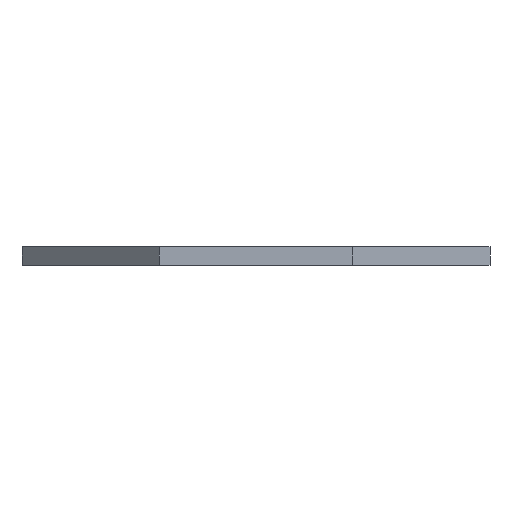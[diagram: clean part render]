
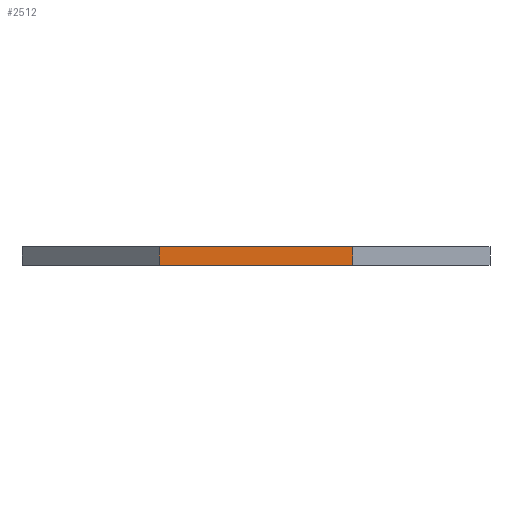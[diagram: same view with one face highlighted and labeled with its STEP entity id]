
A CAD part, front view. The second image highlights one B-rep face of the part: STEP entity #2512.
In plain terms, the highlighted planar face has unit normal (0, -1, 0).
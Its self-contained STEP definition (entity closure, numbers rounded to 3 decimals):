
#72 = PLANE('',#73);
#73 = AXIS2_PLACEMENT_3D('',#74,#75,#76);
#74 = CARTESIAN_POINT('',(0.,0.,8.));
#75 = DIRECTION('',(0.,0.,1.));
#76 = DIRECTION('',(1.,0.,-0.));
#126 = PLANE('',#127);
#127 = AXIS2_PLACEMENT_3D('',#128,#129,#130);
#128 = CARTESIAN_POINT('',(0.,0.,0.));
#129 = DIRECTION('',(0.,0.,1.));
#130 = DIRECTION('',(1.,0.,-0.));
#159 = PLANE('',#160);
#160 = AXIS2_PLACEMENT_3D('',#161,#162,#163);
#161 = CARTESIAN_POINT('',(42.457,-102.5,0.));
#162 = DIRECTION('',(-0.707,0.707,0.));
#163 = DIRECTION('',(0.707,0.707,0.));
#347 = VERTEX_POINT('',#348);
#348 = CARTESIAN_POINT('',(-42.457,-102.5,0.));
#362 = PLANE('',#363);
#363 = AXIS2_PLACEMENT_3D('',#364,#365,#366);
#364 = CARTESIAN_POINT('',(-102.5,-42.457,0.));
#365 = DIRECTION('',(0.707,0.707,-0.));
#366 = DIRECTION('',(0.707,-0.707,0.));
#374 = EDGE_CURVE('',#347,#375,#377,.T.);
#375 = VERTEX_POINT('',#376);
#376 = CARTESIAN_POINT('',(42.457,-102.5,0.));
#377 = SURFACE_CURVE('',#378,(#382,#389),.PCURVE_S1.);
#378 = LINE('',#379,#380);
#379 = CARTESIAN_POINT('',(-42.457,-102.5,0.));
#380 = VECTOR('',#381,1.);
#381 = DIRECTION('',(1.,0.,0.));
#382 = PCURVE('',#126,#383);
#383 = DEFINITIONAL_REPRESENTATION('',(#384),#388);
#384 = LINE('',#385,#386);
#385 = CARTESIAN_POINT('',(-42.457,-102.5));
#386 = VECTOR('',#387,1.);
#387 = DIRECTION('',(1.,0.));
#388 = ( GEOMETRIC_REPRESENTATION_CONTEXT(2) 
PARAMETRIC_REPRESENTATION_CONTEXT() REPRESENTATION_CONTEXT('2D SPACE',''
  ) );
#389 = PCURVE('',#390,#395);
#390 = PLANE('',#391);
#391 = AXIS2_PLACEMENT_3D('',#392,#393,#394);
#392 = CARTESIAN_POINT('',(-42.457,-102.5,0.));
#393 = DIRECTION('',(0.,1.,-0.));
#394 = DIRECTION('',(1.,0.,0.));
#395 = DEFINITIONAL_REPRESENTATION('',(#396),#400);
#396 = LINE('',#397,#398);
#397 = CARTESIAN_POINT('',(0.,0.));
#398 = VECTOR('',#399,1.);
#399 = DIRECTION('',(1.,0.));
#400 = ( GEOMETRIC_REPRESENTATION_CONTEXT(2) 
PARAMETRIC_REPRESENTATION_CONTEXT() REPRESENTATION_CONTEXT('2D SPACE',''
  ) );
#1534 = VERTEX_POINT('',#1535);
#1535 = CARTESIAN_POINT('',(-42.457,-102.5,8.));
#1556 = EDGE_CURVE('',#1534,#1557,#1559,.T.);
#1557 = VERTEX_POINT('',#1558);
#1558 = CARTESIAN_POINT('',(42.457,-102.5,8.));
#1559 = SURFACE_CURVE('',#1560,(#1564,#1571),.PCURVE_S1.);
#1560 = LINE('',#1561,#1562);
#1561 = CARTESIAN_POINT('',(-42.457,-102.5,8.));
#1562 = VECTOR('',#1563,1.);
#1563 = DIRECTION('',(1.,0.,0.));
#1564 = PCURVE('',#72,#1565);
#1565 = DEFINITIONAL_REPRESENTATION('',(#1566),#1570);
#1566 = LINE('',#1567,#1568);
#1567 = CARTESIAN_POINT('',(-42.457,-102.5));
#1568 = VECTOR('',#1569,1.);
#1569 = DIRECTION('',(1.,0.));
#1570 = ( GEOMETRIC_REPRESENTATION_CONTEXT(2) 
PARAMETRIC_REPRESENTATION_CONTEXT() REPRESENTATION_CONTEXT('2D SPACE',''
  ) );
#1571 = PCURVE('',#390,#1572);
#1572 = DEFINITIONAL_REPRESENTATION('',(#1573),#1577);
#1573 = LINE('',#1574,#1575);
#1574 = CARTESIAN_POINT('',(0.,-8.));
#1575 = VECTOR('',#1576,1.);
#1576 = DIRECTION('',(1.,0.));
#1577 = ( GEOMETRIC_REPRESENTATION_CONTEXT(2) 
PARAMETRIC_REPRESENTATION_CONTEXT() REPRESENTATION_CONTEXT('2D SPACE',''
  ) );
#2462 = EDGE_CURVE('',#375,#1557,#2463,.T.);
#2463 = SURFACE_CURVE('',#2464,(#2468,#2475),.PCURVE_S1.);
#2464 = LINE('',#2465,#2466);
#2465 = CARTESIAN_POINT('',(42.457,-102.5,0.));
#2466 = VECTOR('',#2467,1.);
#2467 = DIRECTION('',(0.,0.,1.));
#2468 = PCURVE('',#159,#2469);
#2469 = DEFINITIONAL_REPRESENTATION('',(#2470),#2474);
#2470 = LINE('',#2471,#2472);
#2471 = CARTESIAN_POINT('',(0.,0.));
#2472 = VECTOR('',#2473,1.);
#2473 = DIRECTION('',(0.,-1.));
#2474 = ( GEOMETRIC_REPRESENTATION_CONTEXT(2) 
PARAMETRIC_REPRESENTATION_CONTEXT() REPRESENTATION_CONTEXT('2D SPACE',''
  ) );
#2475 = PCURVE('',#390,#2476);
#2476 = DEFINITIONAL_REPRESENTATION('',(#2477),#2481);
#2477 = LINE('',#2478,#2479);
#2478 = CARTESIAN_POINT('',(84.914,0.));
#2479 = VECTOR('',#2480,1.);
#2480 = DIRECTION('',(0.,-1.));
#2481 = ( GEOMETRIC_REPRESENTATION_CONTEXT(2) 
PARAMETRIC_REPRESENTATION_CONTEXT() REPRESENTATION_CONTEXT('2D SPACE',''
  ) );
#2512 = ADVANCED_FACE('',(#2513),#390,.F.);
#2513 = FACE_BOUND('',#2514,.F.);
#2514 = EDGE_LOOP('',(#2515,#2536,#2537,#2538));
#2515 = ORIENTED_EDGE('',*,*,#2516,.T.);
#2516 = EDGE_CURVE('',#347,#1534,#2517,.T.);
#2517 = SURFACE_CURVE('',#2518,(#2522,#2529),.PCURVE_S1.);
#2518 = LINE('',#2519,#2520);
#2519 = CARTESIAN_POINT('',(-42.457,-102.5,0.));
#2520 = VECTOR('',#2521,1.);
#2521 = DIRECTION('',(0.,0.,1.));
#2522 = PCURVE('',#390,#2523);
#2523 = DEFINITIONAL_REPRESENTATION('',(#2524),#2528);
#2524 = LINE('',#2525,#2526);
#2525 = CARTESIAN_POINT('',(0.,0.));
#2526 = VECTOR('',#2527,1.);
#2527 = DIRECTION('',(0.,-1.));
#2528 = ( GEOMETRIC_REPRESENTATION_CONTEXT(2) 
PARAMETRIC_REPRESENTATION_CONTEXT() REPRESENTATION_CONTEXT('2D SPACE',''
  ) );
#2529 = PCURVE('',#362,#2530);
#2530 = DEFINITIONAL_REPRESENTATION('',(#2531),#2535);
#2531 = LINE('',#2532,#2533);
#2532 = CARTESIAN_POINT('',(84.914,0.));
#2533 = VECTOR('',#2534,1.);
#2534 = DIRECTION('',(0.,-1.));
#2535 = ( GEOMETRIC_REPRESENTATION_CONTEXT(2) 
PARAMETRIC_REPRESENTATION_CONTEXT() REPRESENTATION_CONTEXT('2D SPACE',''
  ) );
#2536 = ORIENTED_EDGE('',*,*,#1556,.T.);
#2537 = ORIENTED_EDGE('',*,*,#2462,.F.);
#2538 = ORIENTED_EDGE('',*,*,#374,.F.);
